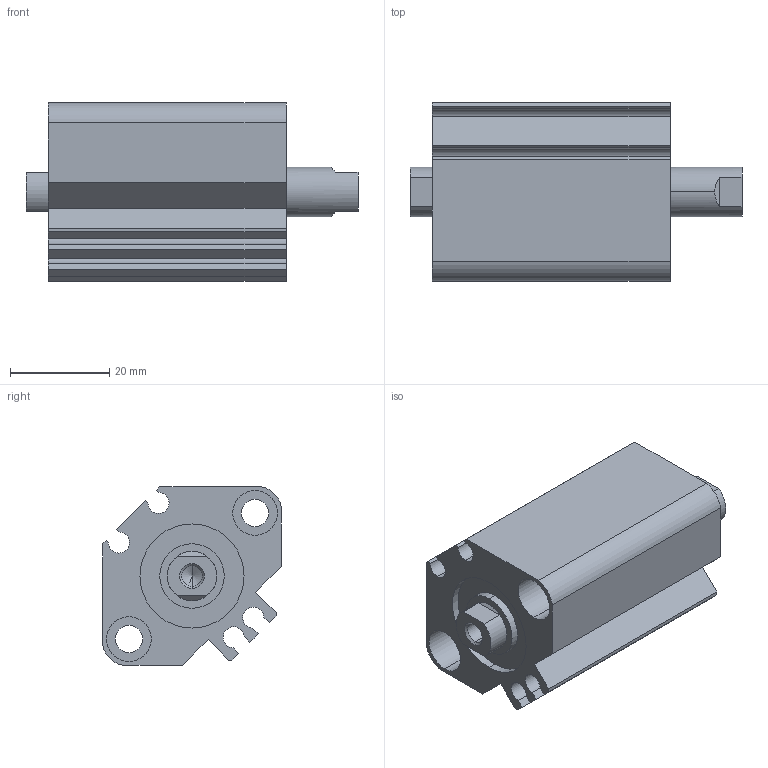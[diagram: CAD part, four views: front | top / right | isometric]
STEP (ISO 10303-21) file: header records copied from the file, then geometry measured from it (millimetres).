
FILE_DESCRIPTION (( 'STEP AP203' ), '1' );
FILE_NAME ('CCMB20-10F-P.STEP', '2020-08-05T11:05:14', ( '' ), ( '' ), 'SwSTEP 2.0', 'SolidWorks 2019', '' );
FILE_SCHEMA (( 'CONFIG_CONTROL_DESIGN' ));
Length unit declared in the file: millimetre
Products named in the file (1): CCMB20-10F-P
Bounding box: 67 x 36 x 36 mm (x, y, z)
Volume: 44677.5 mm3; surface area: 18751.8 mm2
Topology: 2 solids, 2 shells, 114 faces, 276 edges, 178 vertices
Faces by surface type: cylinder 52, plane 50, cone 12
Entity records: 3415 total; most frequent: DIRECTION 606, CARTESIAN_POINT 589, ORIENTED_EDGE 544, EDGE_CURVE 272, AXIS2_PLACEMENT_3D 227, VERTEX_POINT 178, VECTOR 152, LINE 152
